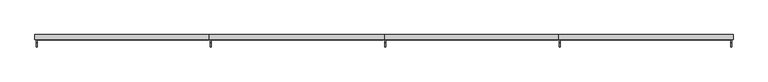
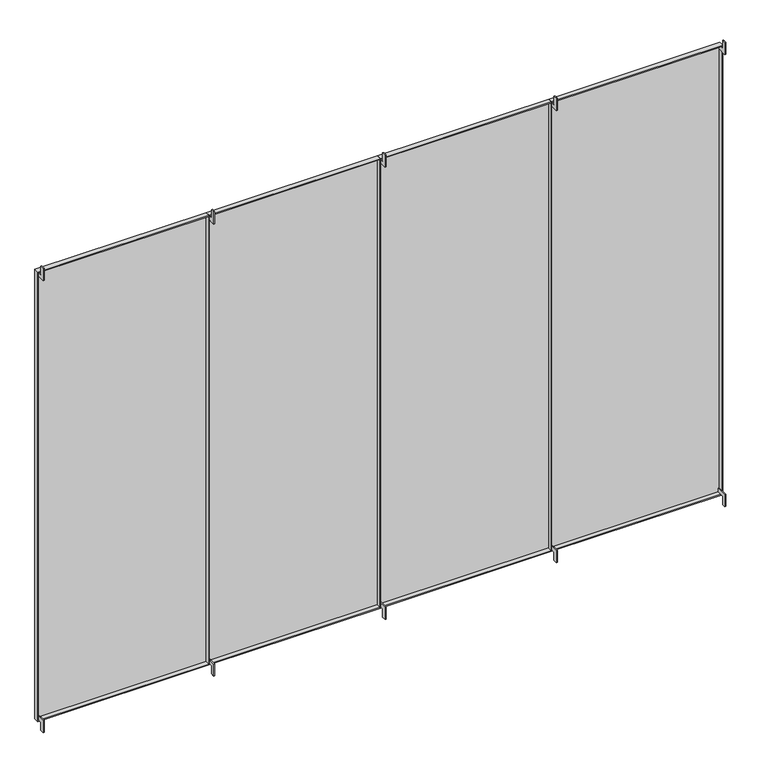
"""IFC4 building model written with IfcOpenShell, lengths in millimetres: furniture geometry, H04 Protección 4 módulos : H4.2 Protección 4 módulos 455x315."""

from ifc_helpers import new_model, si_unit, frame, origin, place, context, project, spatial, polyline, outline, extrude, source, transform, mapped, element, save


def furniture_aca7c88c(model_context):
    return source(origin(), model_context, "Body", "SweptSolid", [
        extrude(outline(polyline([(3100.0, 44.7003264), (3100.0, -1055.2996736), (50.0, -1055.2996736), (50.0, 44.7003264), (3100.0, 44.7003264)]), holes=[polyline([(3093.0, 41.2003264), (57.0, 41.2003264), (57.0, -1051.7996736), (3093.0, -1051.7996736), (3093.0, 41.2003264)])]), frame((0.0, 568.0, 0.0), z_axis=(0.0, 1.0, 0.0), x_axis=(0.0, 0.0, 1.0)), (0.0, 0.0, 1.0), 32.0),
        extrude(outline(polyline([(2237.7003264, 600.0), (2237.7003264, 597.0), (1148.2003264, 597.0), (1148.2003264, 600.0), (2237.7003264, 600.0)])), frame((0.0, 0.0, 57.0), z_axis=(0.0, 0.0, 1.0), x_axis=(1.0, 0.0, 0.0)), (0.0, 0.0, 1.0), 3036.0),
        extrude(outline(polyline([(3100.0, 2244.7003264), (3100.0, 1144.7003264), (50.0, 1144.7003264), (50.0, 2244.7003264), (3100.0, 2244.7003264)]), holes=[polyline([(3093.0, 2237.7003264), (57.0, 2237.7003264), (57.0, 1148.2003264), (3093.0, 1148.2003264), (3093.0, 2237.7003264)])]), frame((0.0, 568.0, 0.0), z_axis=(0.0, 1.0, 0.0), x_axis=(0.0, 0.0, 1.0)), (0.0, 0.0, 1.0), 32.0),
        extrude(outline(polyline([(1141.2003264, 600.0), (1141.2003264, 597.0), (48.2003264, 597.0), (48.2003264, 600.0), (1141.2003264, 600.0)])), frame((0.0, 0.0, 57.0), z_axis=(0.0, 0.0, 1.0), x_axis=(1.0, 0.0, 0.0)), (0.0, 0.0, 1.0), 3036.0),
        extrude(outline(polyline([(3100.0, 1144.7003264), (3100.0, 44.7003264), (50.0, 44.7003264), (50.0, 1144.7003264), (3100.0, 1144.7003264)]), holes=[polyline([(3093.0, 1141.2003264), (57.0, 1141.2003264), (57.0, 48.2003264), (3093.0, 48.2003264), (3093.0, 1141.2003264)])]), frame((0.0, 568.0, 0.0), z_axis=(0.0, 1.0, 0.0), x_axis=(0.0, 0.0, 1.0)), (0.0, 0.0, 1.0), 32.0),
        extrude(outline(polyline([(41.2003264, 600.0), (41.2003264, 597.0), (-1051.7996736, 597.0), (-1051.7996736, 600.0), (41.2003264, 600.0)])), frame((0.0, 0.0, 57.0), z_axis=(0.0, 0.0, 1.0), x_axis=(1.0, 0.0, 0.0)), (0.0, 0.0, 1.0), 3036.0),
        extrude(outline(polyline([(-1058.7996736, 600.0), (-1058.7996736, 597.0), (-2148.2996736, 597.0), (-2148.2996736, 600.0), (-1058.7996736, 600.0)])), frame((0.0, 0.0, 57.0), z_axis=(0.0, 0.0, 1.0), x_axis=(1.0, 0.0, 0.0)), (0.0, 0.0, 1.0), 3036.0),
        extrude(outline(polyline([(3100.0, -1055.2996736), (3100.0, -2155.2996736), (50.0, -2155.2996736), (50.0, -1055.2996736), (3100.0, -1055.2996736)]), holes=[polyline([(3093.0, -1058.7996736), (57.0, -1058.7996736), (57.0, -2148.2996736), (3093.0, -2148.2996736), (3093.0, -1058.7996736)])]), frame((0.0, 568.0, 0.0), z_axis=(0.0, 1.0, 0.0), x_axis=(0.0, 0.0, 1.0)), (0.0, 0.0, 1.0), 32.0),
        extrude(outline(polyline([(522.0, 3068.0), (522.0, 3150.0), (547.0, 3150.0), (547.0, 3093.0), (597.0, 3093.0), (597.0, 3068.0), (522.0, 3068.0)])), frame((-2148.2996736, 0.0, 0.0), z_axis=(1.0, 0.0, 0.0), x_axis=(0.0, 1.0, 0.0)), (0.0, 0.0, 1.0), 7.0),
        extrude(outline(polyline([(522.0, 3068.0), (522.0, 3150.0), (547.0, 3150.0), (547.0, 3093.0), (597.0, 3093.0), (597.0, 3068.0), (522.0, 3068.0)])), frame((-1051.7996736, 0.0, 0.0), z_axis=(1.0, 0.0, 0.0), x_axis=(0.0, 1.0, 0.0)), (0.0, 0.0, 1.0), 7.0),
        extrude(outline(polyline([(522.0, 3068.0), (522.0, 3150.0), (547.0, 3150.0), (547.0, 3093.0), (597.0, 3093.0), (597.0, 3068.0), (522.0, 3068.0)])), frame((2230.7003264, 0.0, 0.0), z_axis=(1.0, 0.0, 0.0), x_axis=(0.0, 1.0, 0.0)), (0.0, 0.0, 1.0), 7.0),
        extrude(outline(polyline([(522.0, 3068.0), (522.0, 3150.0), (547.0, 3150.0), (547.0, 3093.0), (597.0, 3093.0), (597.0, 3068.0), (522.0, 3068.0)])), frame((1148.2003264, 0.0, 0.0), z_axis=(1.0, 0.0, 0.0), x_axis=(0.0, 1.0, 0.0)), (0.0, 0.0, 1.0), 7.0),
        extrude(outline(polyline([(522.0, 82.0), (597.0, 82.0), (597.0, 57.0), (547.0, 57.0), (547.0, 0.0), (522.0, 0.0), (522.0, 82.0)])), frame((2230.7003264, 0.0, 0.0), z_axis=(1.0, 0.0, 0.0), x_axis=(0.0, 1.0, 0.0)), (0.0, 0.0, 1.0), 7.0),
        extrude(outline(polyline([(522.0, 82.0), (597.0, 82.0), (597.0, 57.0), (547.0, 57.0), (547.0, 0.0), (522.0, 0.0), (522.0, 82.0)])), frame((1148.2003264, 0.0, 0.0), z_axis=(1.0, 0.0, 0.0), x_axis=(0.0, 1.0, 0.0)), (0.0, 0.0, 1.0), 7.0),
        extrude(outline(polyline([(522.0, 82.0), (597.0, 82.0), (597.0, 57.0), (547.0, 57.0), (547.0, 0.0), (522.0, 0.0), (522.0, 82.0)])), frame((-2148.2996736, 0.0, 0.0), z_axis=(1.0, 0.0, 0.0), x_axis=(0.0, 1.0, 0.0)), (0.0, 0.0, 1.0), 7.0),
        extrude(outline(polyline([(522.0, 82.0), (597.0, 82.0), (597.0, 57.0), (547.0, 57.0), (547.0, 0.0), (522.0, 0.0), (522.0, 82.0)])), frame((-1051.7996736, 0.0, 0.0), z_axis=(1.0, 0.0, 0.0), x_axis=(0.0, 1.0, 0.0)), (0.0, 0.0, 1.0), 7.0),
        extrude(outline(polyline([(522.0, 3068.0), (522.0, 3150.0), (547.0, 3150.0), (547.0, 3093.0), (597.0, 3093.0), (597.0, 3068.0), (522.0, 3068.0)])), frame((48.2003264, 0.0, 0.0), z_axis=(1.0, 0.0, 0.0), x_axis=(0.0, 1.0, 0.0)), (0.0, 0.0, 1.0), 7.0),
        extrude(outline(polyline([(522.0, 82.0), (597.0, 82.0), (597.0, 57.0), (547.0, 57.0), (547.0, 0.0), (522.0, 0.0), (522.0, 82.0)])), frame((48.2003264, 0.0, 0.0), z_axis=(1.0, 0.0, 0.0), x_axis=(0.0, 1.0, 0.0)), (0.0, 0.0, 1.0), 7.0),
    ])


if __name__ == "__main__":
    model = new_model("IFC4")
    model_context = context("Model", 3, world=origin())
    ifc_project = project(units=[si_unit("LENGTHUNIT", "METRE", prefix="MILLI")], contexts=[model_context])
    site = spatial("IfcSite", under=ifc_project)
    building = spatial("IfcBuilding", under=site)
    placement = place(None, origin())
    furniture_shape = furniture_aca7c88c(model_context)
    element("IfcFurniture", 1, ObjectType="H04 Protección 4 módulos : H4.2 Protección 4 módulos 455x315", at=placement, inside=building, context=model_context, shape_type="MappedRepresentation", body=[
        mapped(furniture_shape, transform((0.0, 0.0, 0.0), x_axis=(1.0, 0.0, 0.0), y_axis=(0.0, 1.0, 0.0), z_axis=(0.0, 0.0, 1.0))),
    ])
    save(model, "model.ifc")
